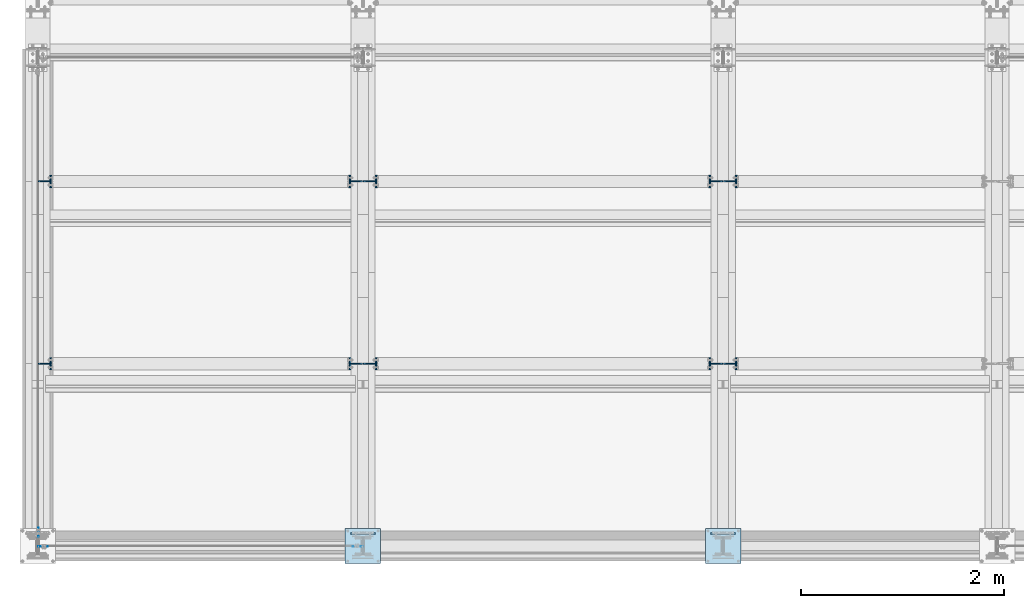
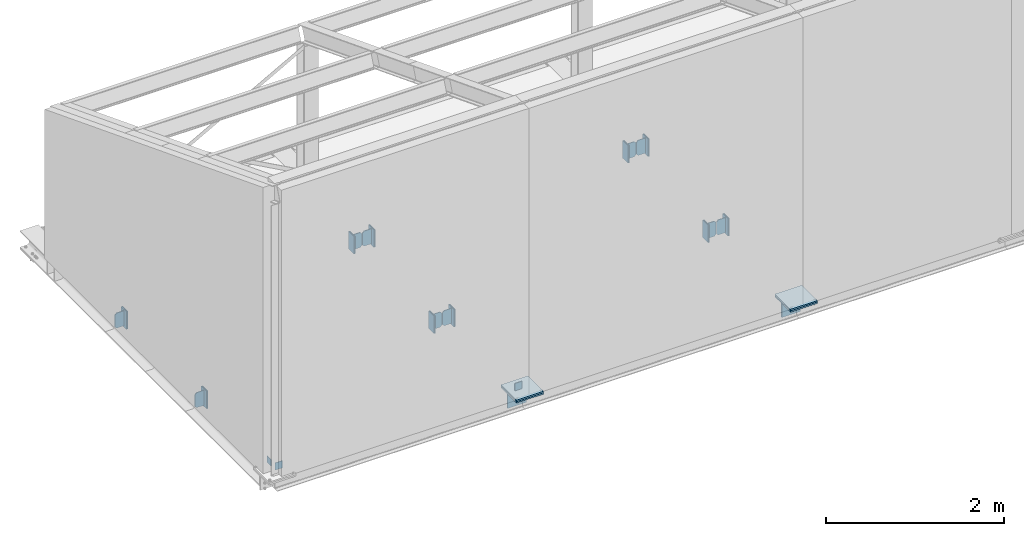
# One storey, part 4 of 66: 39 plates.
"""IFC4 building model written with IfcOpenShell, lengths in metres."""

from ifc_helpers import new_model, si_unit, frame, origin_with_axes, place, context, project, spatial, polyline, outline, extrude, type_object, element, save


model = new_model("IFC4")

# Units and contexts
model_context = context("Model", 3, precision=1e-05, world=origin_with_axes())
ifc_project = project(units=[si_unit("LENGTHUNIT", "METRE"), si_unit("AREAUNIT", "SQUARE_METRE"), si_unit("VOLUMEUNIT", "CUBIC_METRE"), si_unit("MASSUNIT", "GRAM", prefix="KILO"), si_unit("TIMEUNIT", "SECOND"), si_unit("PLANEANGLEUNIT", "RADIAN"), si_unit("SOLIDANGLEUNIT", "STERADIAN"), si_unit("THERMODYNAMICTEMPERATUREUNIT", "DEGREE_CELSIUS")], contexts=[model_context])

# Site, building, storey
placement_1 = place(None, origin_with_axes())
site = spatial("IfcSite", under=ifc_project, at=placement_1, Name="Italia", CompositionType="ELEMENT")
building = spatial("IfcBuilding", under=site, at=placement_1, Name="Uffici", CompositionType="ELEMENT")
storey_placement = place(None, frame((0.0, 0.0, 3.299999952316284), z_axis=(0.0, 0.0, 1.0), x_axis=(1.0, 0.0, 0.0)))
storey = spatial("IfcBuildingStorey", under=building, at=storey_placement, Name="Storey 1", CompositionType="ELEMENT", Elevation=3.299999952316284)

# Plates
plate_type_1 = type_object("IfcPlateType", Name="Collegamento -001_-002", PredefinedType="SHEET")
placement_2 = place(placement_1, origin_with_axes())
plate_1_placement = place(placement_2, origin_with_axes())
element("IfcPlate", 1, at=plate_1_placement, inside=storey, type_object=plate_type_1, Name="Collegamento -001_-002", context=model_context, shape_type="SweptSolid", body=[
    extrude(outline(polyline([(0.0, 0.0), (-0.12, 0.0), (-0.12, 0.24), (0.0, 0.24), (0.0, 0.0)])), frame((0.13, 1.73667, 3.06), z_axis=(-1.0, 0.0, 0.0), x_axis=(0.0, -1.0, 0.0)), (0.0, 0.0, 1.0), 0.01),
])
plate_type_2 = type_object("IfcPlateType", Name="Collegamento -001_-002", PredefinedType="SHEET")
plate_2_placement = place(placement_2, origin_with_axes())
element("IfcPlate", 2, at=plate_2_placement, inside=storey, type_object=plate_type_2, Name="Collegamento -001_-002", context=model_context, shape_type="SweptSolid", body=[
    extrude(outline(polyline([(0.0, 0.0), (-0.12, 0.0), (-0.12, 0.24), (0.0, 0.24), (0.0, 0.0)])), frame((0.14, 1.73667, 3.06), z_axis=(-1.0, 0.0, 0.0), x_axis=(0.0, -1.0, 0.0)), (0.0, 0.0, 1.0), 0.01),
])
plate_type_3 = type_object("IfcPlateType", Name="Collegamento -001_-002", PredefinedType="SHEET")
plate_3_placement = place(placement_2, origin_with_axes())
element("IfcPlate", 3, at=plate_3_placement, inside=storey, type_object=plate_type_3, Name="Collegamento -001_-002", context=model_context, shape_type="SweptSolid", body=[
    extrude(outline(polyline([(0.0, 0.0), (0.094, 0.0), (0.115, 0.0210001), (0.115, 0.185), (0.094, 0.206), (0.0, 0.206), (0.0, 0.0)])), frame((0.12, 1.79167, 3.077), z_axis=(0.0, 1.0, 0.0), x_axis=(-1.0, 0.0, 0.0)), (0.0, 0.0, 1.0), 0.00999999),
])
plate_type_4 = type_object("IfcPlateType", Name="Collegamento -002_-001", PredefinedType="SHEET")
plate_4_placement = place(placement_2, origin_with_axes())
element("IfcPlate", 4, at=plate_4_placement, inside=storey, type_object=plate_type_4, Name="Collegamento -002_-001", context=model_context, shape_type="SweptSolid", body=[
    extrude(outline(polyline([(0.0, 0.0), (-0.12, 0.0), (-0.12, 0.24), (0.0, 0.24), (0.0, 0.0)])), frame((3.075, 1.85667, 3.06), z_axis=(1.0, 0.0, 0.0), x_axis=(0.0, 1.0, 0.0)), (0.0, 0.0, 1.0), 0.00999999),
])
plate_type_5 = type_object("IfcPlateType", Name="Collegamento -002_-001", PredefinedType="SHEET")
plate_5_placement = place(placement_2, origin_with_axes())
element("IfcPlate", 5, at=plate_5_placement, inside=storey, type_object=plate_type_5, Name="Collegamento -002_-001", context=model_context, shape_type="SweptSolid", body=[
    extrude(outline(polyline([(0.0, 0.0), (-0.12, 0.0), (-0.12, 0.24), (0.0, 0.24), (0.0, 0.0)])), frame((3.065, 1.85667, 3.06), z_axis=(1.0, 0.0, 0.0), x_axis=(0.0, 1.0, 0.0)), (0.0, 0.0, 1.0), 0.00999999),
])
plate_type_6 = type_object("IfcPlateType", Name="Collegamento -002_-001", PredefinedType="SHEET")
plate_6_placement = place(placement_2, origin_with_axes())
element("IfcPlate", 6, at=plate_6_placement, inside=storey, type_object=plate_type_6, Name="Collegamento -002_-001", context=model_context, shape_type="SweptSolid", body=[
    extrude(outline(polyline([(0.0, 0.0), (0.0940001, 0.0), (0.115, 0.0210001), (0.115, 0.185), (0.0940001, 0.206), (0.0, 0.206), (0.0, 0.0)])), frame((3.085, 1.80167, 3.077), z_axis=(0.0, -1.0, 0.0), x_axis=(1.0, 0.0, 0.0)), (0.0, 0.0, 1.0), 0.00999999),
])
plate_type_7 = type_object("IfcPlateType", Name="Collegamento -002_-003", PredefinedType="SHEET")
plate_7_placement = place(placement_2, origin_with_axes())
element("IfcPlate", 7, at=plate_7_placement, inside=storey, type_object=plate_type_7, Name="Collegamento -002_-003", context=model_context, shape_type="SweptSolid", body=[
    extrude(outline(polyline([(0.0, 0.0), (-0.12, 0.0), (-0.12, 0.24), (0.0, 0.24), (0.0, 0.0)])), frame((3.335, 1.73667, 3.06), z_axis=(-1.0, 0.0, 0.0), x_axis=(0.0, -1.0, 0.0)), (0.0, 0.0, 1.0), 0.00999999),
])
plate_type_8 = type_object("IfcPlateType", Name="Collegamento -002_-003", PredefinedType="SHEET")
plate_8_placement = place(placement_2, origin_with_axes())
element("IfcPlate", 8, at=plate_8_placement, inside=storey, type_object=plate_type_8, Name="Collegamento -002_-003", context=model_context, shape_type="SweptSolid", body=[
    extrude(outline(polyline([(0.0, 0.0), (-0.12, 0.0), (-0.12, 0.24), (0.0, 0.24), (0.0, 0.0)])), frame((3.345, 1.73667, 3.06), z_axis=(-1.0, 0.0, 0.0), x_axis=(0.0, -1.0, 0.0)), (0.0, 0.0, 1.0), 0.00999999),
])
plate_type_9 = type_object("IfcPlateType", Name="Collegamento -002_-003", PredefinedType="SHEET")
plate_9_placement = place(placement_2, origin_with_axes())
element("IfcPlate", 9, at=plate_9_placement, inside=storey, type_object=plate_type_9, Name="Collegamento -002_-003", context=model_context, shape_type="SweptSolid", body=[
    extrude(outline(polyline([(0.0, 0.0), (0.0940001, 0.0), (0.115, 0.0210001), (0.115, 0.185), (0.0940001, 0.206), (0.0, 0.206), (0.0, 0.0)])), frame((3.325, 1.79167, 3.077), z_axis=(0.0, 1.0, 0.0), x_axis=(-1.0, 0.0, 0.0)), (0.0, 0.0, 1.0), 0.00999999),
])
plate_type_10 = type_object("IfcPlateType", Name="Collegamento -003_-002", PredefinedType="SHEET")
plate_10_placement = place(placement_2, origin_with_axes())
element("IfcPlate", 10, at=plate_10_placement, inside=storey, type_object=plate_type_10, Name="Collegamento -003_-002", context=model_context, shape_type="SweptSolid", body=[
    extrude(outline(polyline([(0.0, 0.0), (-0.12, 0.0), (-0.12, 0.24), (0.0, 0.24), (0.0, 0.0)])), frame((6.625, 1.85667, 3.06), z_axis=(1.0, 0.0, 0.0), x_axis=(0.0, 1.0, 0.0)), (0.0, 0.0, 1.0), 0.0100002),
])
plate_type_11 = type_object("IfcPlateType", Name="Collegamento -003_-002", PredefinedType="SHEET")
plate_11_placement = place(placement_2, origin_with_axes())
element("IfcPlate", 11, at=plate_11_placement, inside=storey, type_object=plate_type_11, Name="Collegamento -003_-002", context=model_context, shape_type="SweptSolid", body=[
    extrude(outline(polyline([(0.0, 0.0), (-0.12, 0.0), (-0.12, 0.24), (0.0, 0.24), (0.0, 0.0)])), frame((6.615, 1.85667, 3.06), z_axis=(1.0, 0.0, 0.0), x_axis=(0.0, 1.0, 0.0)), (0.0, 0.0, 1.0), 0.00999975),
])
plate_type_12 = type_object("IfcPlateType", Name="Collegamento -003_-002", PredefinedType="SHEET")
plate_12_placement = place(placement_2, origin_with_axes())
element("IfcPlate", 12, at=plate_12_placement, inside=storey, type_object=plate_type_12, Name="Collegamento -003_-002", context=model_context, shape_type="SweptSolid", body=[
    extrude(outline(polyline([(0.0, 0.0), (0.0939999, 0.0), (0.115, 0.0210001), (0.115, 0.185), (0.0939999, 0.206), (0.0, 0.206), (0.0, 0.0)])), frame((6.635, 1.80167, 3.077), z_axis=(0.0, -1.0, 0.0), x_axis=(1.0, 0.0, 0.0)), (0.0, 0.0, 1.0), 0.00999999),
])
plate_type_13 = type_object("IfcPlateType", Name="Collegamento -003_-004", PredefinedType="SHEET")
plate_13_placement = place(placement_2, origin_with_axes())
element("IfcPlate", 13, at=plate_13_placement, inside=storey, type_object=plate_type_13, Name="Collegamento -003_-004", context=model_context, shape_type="SweptSolid", body=[
    extrude(outline(polyline([(0.0, 0.0), (-0.12, 0.0), (-0.12, 0.24), (0.0, 0.24), (0.0, 0.0)])), frame((6.885, 1.73667, 3.06), z_axis=(-1.0, 0.0, 0.0), x_axis=(0.0, -1.0, 0.0)), (0.0, 0.0, 1.0), 0.0100002),
])
plate_type_14 = type_object("IfcPlateType", Name="Collegamento -003_-004", PredefinedType="SHEET")
plate_14_placement = place(placement_2, origin_with_axes())
element("IfcPlate", 14, at=plate_14_placement, inside=storey, type_object=plate_type_14, Name="Collegamento -003_-004", context=model_context, shape_type="SweptSolid", body=[
    extrude(outline(polyline([(0.0, 0.0), (-0.12, 0.0), (-0.12, 0.24), (0.0, 0.24), (0.0, 0.0)])), frame((6.895, 1.73667, 3.06), z_axis=(-1.0, 0.0, 0.0), x_axis=(0.0, -1.0, 0.0)), (0.0, 0.0, 1.0), 0.00999975),
])
plate_type_15 = type_object("IfcPlateType", Name="Collegamento -003_-004", PredefinedType="SHEET")
plate_15_placement = place(placement_2, origin_with_axes())
element("IfcPlate", 15, at=plate_15_placement, inside=storey, type_object=plate_type_15, Name="Collegamento -003_-004", context=model_context, shape_type="SweptSolid", body=[
    extrude(outline(polyline([(0.0, 0.0), (0.0939999, 0.0), (0.115, 0.0210001), (0.115, 0.185), (0.0939999, 0.206), (0.0, 0.206), (0.0, 0.0)])), frame((6.875, 1.79167, 3.077), z_axis=(0.0, 1.0, 0.0), x_axis=(-1.0, 0.0, 0.0)), (0.0, 0.0, 1.0), 0.00999999),
])
plate_type_16 = type_object("IfcPlateType", Name="Collegamento -011_-012", PredefinedType="SHEET")
plate_16_placement = place(placement_2, origin_with_axes())
element("IfcPlate", 16, at=plate_16_placement, inside=storey, type_object=plate_type_16, Name="Collegamento -011_-012", context=model_context, shape_type="SweptSolid", body=[
    extrude(outline(polyline([(0.0, 0.0), (-0.12, 0.0), (-0.12, 0.24), (0.0, 0.24), (0.0, 0.0)])), frame((0.13, 3.53333, 3.06), z_axis=(-1.0, 0.0, 0.0), x_axis=(0.0, -1.0, 0.0)), (0.0, 0.0, 1.0), 0.01),
])
plate_type_17 = type_object("IfcPlateType", Name="Collegamento -011_-012", PredefinedType="SHEET")
plate_17_placement = place(placement_2, origin_with_axes())
element("IfcPlate", 17, at=plate_17_placement, inside=storey, type_object=plate_type_17, Name="Collegamento -011_-012", context=model_context, shape_type="SweptSolid", body=[
    extrude(outline(polyline([(0.0, 0.0), (-0.12, 0.0), (-0.12, 0.24), (0.0, 0.24), (0.0, 0.0)])), frame((0.14, 3.53333, 3.06), z_axis=(-1.0, 0.0, 0.0), x_axis=(0.0, -1.0, 0.0)), (0.0, 0.0, 1.0), 0.01),
])
plate_type_18 = type_object("IfcPlateType", Name="Collegamento -011_-012", PredefinedType="SHEET")
plate_18_placement = place(placement_2, origin_with_axes())
element("IfcPlate", 18, at=plate_18_placement, inside=storey, type_object=plate_type_18, Name="Collegamento -011_-012", context=model_context, shape_type="SweptSolid", body=[
    extrude(outline(polyline([(0.0, 0.0), (0.094, 0.0), (0.115, 0.0210001), (0.115, 0.185), (0.094, 0.206), (0.0, 0.206), (0.0, 0.0)])), frame((0.12, 3.58833, 3.077), z_axis=(0.0, 1.0, 0.0), x_axis=(-1.0, 0.0, 0.0)), (0.0, 0.0, 1.0), 0.0100002),
])
plate_type_19 = type_object("IfcPlateType", Name="Collegamento -012_-011", PredefinedType="SHEET")
plate_19_placement = place(placement_2, origin_with_axes())
element("IfcPlate", 19, at=plate_19_placement, inside=storey, type_object=plate_type_19, Name="Collegamento -012_-011", context=model_context, shape_type="SweptSolid", body=[
    extrude(outline(polyline([(0.0, 0.0), (-0.12, 0.0), (-0.12, 0.24), (0.0, 0.24), (0.0, 0.0)])), frame((3.075, 3.65333, 3.06), z_axis=(1.0, 0.0, 0.0), x_axis=(0.0, 1.0, 0.0)), (0.0, 0.0, 1.0), 0.00999999),
])
plate_type_20 = type_object("IfcPlateType", Name="Collegamento -012_-011", PredefinedType="SHEET")
plate_20_placement = place(placement_2, origin_with_axes())
element("IfcPlate", 20, at=plate_20_placement, inside=storey, type_object=plate_type_20, Name="Collegamento -012_-011", context=model_context, shape_type="SweptSolid", body=[
    extrude(outline(polyline([(0.0, 0.0), (-0.12, 0.0), (-0.12, 0.24), (0.0, 0.24), (0.0, 0.0)])), frame((3.065, 3.65333, 3.06), z_axis=(1.0, 0.0, 0.0), x_axis=(0.0, 1.0, 0.0)), (0.0, 0.0, 1.0), 0.00999999),
])
plate_type_21 = type_object("IfcPlateType", Name="Collegamento -012_-011", PredefinedType="SHEET")
plate_21_placement = place(placement_2, origin_with_axes())
element("IfcPlate", 21, at=plate_21_placement, inside=storey, type_object=plate_type_21, Name="Collegamento -012_-011", context=model_context, shape_type="SweptSolid", body=[
    extrude(outline(polyline([(0.0, 0.0), (0.0940001, 0.0), (0.115, 0.0210001), (0.115, 0.185), (0.0940001, 0.206), (0.0, 0.206), (0.0, 0.0)])), frame((3.085, 3.59833, 3.077), z_axis=(0.0, -1.0, 0.0), x_axis=(1.0, 0.0, 0.0)), (0.0, 0.0, 1.0), 0.0100002),
])
plate_type_22 = type_object("IfcPlateType", Name="Collegamento -012_-013", PredefinedType="SHEET")
plate_22_placement = place(placement_2, origin_with_axes())
element("IfcPlate", 22, at=plate_22_placement, inside=storey, type_object=plate_type_22, Name="Collegamento -012_-013", context=model_context, shape_type="SweptSolid", body=[
    extrude(outline(polyline([(0.0, 0.0), (-0.12, 0.0), (-0.12, 0.24), (0.0, 0.24), (0.0, 0.0)])), frame((3.335, 3.53333, 3.06), z_axis=(-1.0, 0.0, 0.0), x_axis=(0.0, -1.0, 0.0)), (0.0, 0.0, 1.0), 0.00999999),
])
plate_type_23 = type_object("IfcPlateType", Name="Collegamento -012_-013", PredefinedType="SHEET")
plate_23_placement = place(placement_2, origin_with_axes())
element("IfcPlate", 23, at=plate_23_placement, inside=storey, type_object=plate_type_23, Name="Collegamento -012_-013", context=model_context, shape_type="SweptSolid", body=[
    extrude(outline(polyline([(0.0, 0.0), (-0.12, 0.0), (-0.12, 0.24), (0.0, 0.24), (0.0, 0.0)])), frame((3.345, 3.53333, 3.06), z_axis=(-1.0, 0.0, 0.0), x_axis=(0.0, -1.0, 0.0)), (0.0, 0.0, 1.0), 0.00999999),
])
plate_type_24 = type_object("IfcPlateType", Name="Collegamento -012_-013", PredefinedType="SHEET")
plate_24_placement = place(placement_2, origin_with_axes())
element("IfcPlate", 24, at=plate_24_placement, inside=storey, type_object=plate_type_24, Name="Collegamento -012_-013", context=model_context, shape_type="SweptSolid", body=[
    extrude(outline(polyline([(0.0, 0.0), (0.0940001, 0.0), (0.115, 0.0210001), (0.115, 0.185), (0.0940001, 0.206), (0.0, 0.206), (0.0, 0.0)])), frame((3.325, 3.58833, 3.077), z_axis=(0.0, 1.0, 0.0), x_axis=(-1.0, 0.0, 0.0)), (0.0, 0.0, 1.0), 0.0100002),
])
plate_type_25 = type_object("IfcPlateType", Name="Collegamento -013_-012", PredefinedType="SHEET")
plate_25_placement = place(placement_2, origin_with_axes())
element("IfcPlate", 25, at=plate_25_placement, inside=storey, type_object=plate_type_25, Name="Collegamento -013_-012", context=model_context, shape_type="SweptSolid", body=[
    extrude(outline(polyline([(0.0, 0.0), (-0.12, 0.0), (-0.12, 0.24), (0.0, 0.24), (0.0, 0.0)])), frame((6.625, 3.65333, 3.06), z_axis=(1.0, 0.0, 0.0), x_axis=(0.0, 1.0, 0.0)), (0.0, 0.0, 1.0), 0.0100002),
])
plate_type_26 = type_object("IfcPlateType", Name="Collegamento -013_-012", PredefinedType="SHEET")
plate_26_placement = place(placement_2, origin_with_axes())
element("IfcPlate", 26, at=plate_26_placement, inside=storey, type_object=plate_type_26, Name="Collegamento -013_-012", context=model_context, shape_type="SweptSolid", body=[
    extrude(outline(polyline([(0.0, 0.0), (-0.12, 0.0), (-0.12, 0.24), (0.0, 0.24), (0.0, 0.0)])), frame((6.615, 3.65333, 3.06), z_axis=(1.0, 0.0, 0.0), x_axis=(0.0, 1.0, 0.0)), (0.0, 0.0, 1.0), 0.00999975),
])
plate_type_27 = type_object("IfcPlateType", Name="Collegamento -013_-012", PredefinedType="SHEET")
plate_27_placement = place(placement_2, origin_with_axes())
element("IfcPlate", 27, at=plate_27_placement, inside=storey, type_object=plate_type_27, Name="Collegamento -013_-012", context=model_context, shape_type="SweptSolid", body=[
    extrude(outline(polyline([(0.0, 0.0), (0.0939999, 0.0), (0.115, 0.0210001), (0.115, 0.185), (0.0939999, 0.206), (0.0, 0.206), (0.0, 0.0)])), frame((6.635, 3.59833, 3.077), z_axis=(0.0, -1.0, 0.0), x_axis=(1.0, 0.0, 0.0)), (0.0, 0.0, 1.0), 0.0100002),
])
plate_type_28 = type_object("IfcPlateType", Name="Collegamento -013_-014", PredefinedType="SHEET")
plate_28_placement = place(placement_2, origin_with_axes())
element("IfcPlate", 28, at=plate_28_placement, inside=storey, type_object=plate_type_28, Name="Collegamento -013_-014", context=model_context, shape_type="SweptSolid", body=[
    extrude(outline(polyline([(0.0, 0.0), (-0.12, 0.0), (-0.12, 0.24), (0.0, 0.24), (0.0, 0.0)])), frame((6.885, 3.53333, 3.06), z_axis=(-1.0, 0.0, 0.0), x_axis=(0.0, -1.0, 0.0)), (0.0, 0.0, 1.0), 0.0100002),
])
plate_type_29 = type_object("IfcPlateType", Name="Collegamento -013_-014", PredefinedType="SHEET")
plate_29_placement = place(placement_2, origin_with_axes())
element("IfcPlate", 29, at=plate_29_placement, inside=storey, type_object=plate_type_29, Name="Collegamento -013_-014", context=model_context, shape_type="SweptSolid", body=[
    extrude(outline(polyline([(0.0, 0.0), (-0.12, 0.0), (-0.12, 0.24), (0.0, 0.24), (0.0, 0.0)])), frame((6.895, 3.53333, 3.06), z_axis=(-1.0, 0.0, 0.0), x_axis=(0.0, -1.0, 0.0)), (0.0, 0.0, 1.0), 0.00999975),
])
plate_type_30 = type_object("IfcPlateType", Name="Collegamento -013_-014", PredefinedType="SHEET")
plate_30_placement = place(placement_2, origin_with_axes())
element("IfcPlate", 30, at=plate_30_placement, inside=storey, type_object=plate_type_30, Name="Collegamento -013_-014", context=model_context, shape_type="SweptSolid", body=[
    extrude(outline(polyline([(0.0, 0.0), (0.0939999, 0.0), (0.115, 0.0210001), (0.115, 0.185), (0.0939999, 0.206), (0.0, 0.206), (0.0, 0.0)])), frame((6.875, 3.58833, 3.077), z_axis=(0.0, 1.0, 0.0), x_axis=(-1.0, 0.0, 0.0)), (0.0, 0.0, 1.0), 0.0100002),
])
plate_type_31 = type_object("IfcPlateType", Name="Collegamenti 0101_-001 0102_-002 0103_-003 0104_-004", PredefinedType="SHEET")
plate_31_placement = place(placement_2, origin_with_axes())
element("IfcPlate", 31, at=plate_31_placement, inside=storey, type_object=plate_type_31, Name="Collegamenti 0101_-001 0102_-002 0103_-003 0104_-004", context=model_context, shape_type="SweptSolid", body=[
    extrude(outline(polyline([(0.0, 0.0), (-0.24, 0.0), (-0.24, 0.287), (0.0, 0.287), (0.0, 0.0)])), frame((3.325, 0.13, 3.013), z_axis=(0.0, -1.0, 0.0), x_axis=(1.0, 0.0, 0.0)), (0.0, 0.0, 1.0), 0.015),
])
plate_type_32 = type_object("IfcPlateType", Name="Collegamenti 0101_-001 0102_-002 0103_-003 0104_-004", PredefinedType="SHEET")
plate_32_placement = place(placement_2, origin_with_axes())
element("IfcPlate", 32, at=plate_32_placement, inside=storey, type_object=plate_type_32, Name="Collegamenti 0101_-001 0102_-002 0103_-003 0104_-004", context=model_context, shape_type="SweptSolid", body=[
    extrude(outline(polyline([(0.0, 0.0), (-0.24, 0.0), (-0.24, 0.287), (0.0, 0.287), (0.0, 0.0)])), frame((6.875, 0.13, 3.013), z_axis=(0.0, -1.0, 0.0), x_axis=(1.0, 0.0, 0.0)), (0.0, 0.0, 1.0), 0.015),
])
plate_type_33 = type_object("IfcPlateType", Name="Collegamenti 0101_0201 0102_0202 0103_0203 0104_0204 0105_0205", PredefinedType="SHEET")
plate_33_placement = place(placement_2, origin_with_axes())
element("IfcPlate", 33, at=plate_33_placement, inside=storey, type_object=plate_type_33, Name="Collegamenti 0101_0201 0102_0202 0103_0203 0104_0204 0105_0205", context=model_context, shape_type="SweptSolid", body=[
    extrude(outline(polyline([(0.0, 0.0), (0.0, 0.35), (0.349, 0.35), (0.349, 0.0), (0.0, 0.0)])), frame((3.03, -0.1745, 3.32), z_axis=(0.0, 0.0, -1.0), x_axis=(0.0, 1.0, 0.0)), (0.0, 0.0, 1.0), 0.02),
])
plate_type_34 = type_object("IfcPlateType", Name="Collegamenti 0101_0201 0102_0202 0103_0203 0104_0204 0105_0205", PredefinedType="SHEET")
plate_34_placement = place(placement_2, origin_with_axes())
element("IfcPlate", 34, at=plate_34_placement, inside=storey, type_object=plate_type_34, Name="Collegamenti 0101_0201 0102_0202 0103_0203 0104_0204 0105_0205", context=model_context, shape_type="SweptSolid", body=[
    extrude(outline(polyline([(0.0, 0.0), (0.0, 0.35), (0.349, 0.35), (0.349, 0.0), (0.0, 0.0)])), frame((3.03, -0.1745, 3.3), z_axis=(0.0, 0.0, -1.0), x_axis=(0.0, 1.0, 0.0)), (0.0, 0.0, 1.0), 0.02),
])
plate_type_35 = type_object("IfcPlateType", Name="Collegamenti 0101_0201 0102_0202 0103_0203 0104_0204 0105_0205", PredefinedType="SHEET")
plate_35_placement = place(placement_2, origin_with_axes())
element("IfcPlate", 35, at=plate_35_placement, inside=storey, type_object=plate_type_35, Name="Collegamenti 0101_0201 0102_0202 0103_0203 0104_0204 0105_0205", context=model_context, shape_type="SweptSolid", body=[
    extrude(outline(polyline([(0.0, 0.0), (0.0, 0.35), (0.349, 0.35), (0.349, 0.0), (0.0, 0.0)])), frame((6.58, -0.1745, 3.32), z_axis=(0.0, 0.0, -1.0), x_axis=(0.0, 1.0, 0.0)), (0.0, 0.0, 1.0), 0.02),
])
plate_type_36 = type_object("IfcPlateType", Name="Collegamenti 0101_0201 0102_0202 0103_0203 0104_0204 0105_0205", PredefinedType="SHEET")
plate_36_placement = place(placement_2, origin_with_axes())
element("IfcPlate", 36, at=plate_36_placement, inside=storey, type_object=plate_type_36, Name="Collegamenti 0101_0201 0102_0202 0103_0203 0104_0204 0105_0205", context=model_context, shape_type="SweptSolid", body=[
    extrude(outline(polyline([(0.0, 0.0), (0.0, 0.35), (0.349, 0.35), (0.349, 0.0), (0.0, 0.0)])), frame((6.58, -0.1745, 3.3), z_axis=(0.0, 0.0, -1.0), x_axis=(0.0, 1.0, 0.0)), (0.0, 0.0, 1.0), 0.02),
])
plate_type_37 = type_object("IfcPlateType", Name="Collegamento 0101_0202", PredefinedType="SHEET")
plate_37_placement = place(placement_2, origin_with_axes())
element("IfcPlate", 37, at=plate_37_placement, inside=storey, type_object=plate_type_37, Name="Collegamento 0101_0202", context=model_context, shape_type="SweptSolid", body=[
    extrude(outline(polyline([(0.0, 0.0), (0.095, 0.0), (0.0949999, -0.0999999), (0.0, -0.0999999), (0.0, 0.0)])), frame((0.098, -0.0075, 3.41996), z_axis=(0.0, 1.0, 0.0), x_axis=(-1.0, 0.0, 0.0)), (0.0, 0.0, 1.0), 0.005),
])
plate_type_38 = type_object("IfcPlateType", Name="Collegamento 0101_0206", PredefinedType="SHEET")
plate_38_placement = place(placement_2, origin_with_axes())
element("IfcPlate", 38, at=plate_38_placement, inside=storey, type_object=plate_type_38, Name="Collegamento 0101_0206", context=model_context, shape_type="SweptSolid", body=[
    extrude(outline(polyline([(0.0, 0.0), (0.094, 0.0), (0.0939999, -0.0880001), (-1.93715e-07, -0.0880001), (0.0, 0.0)])), frame((0.0075, 0.1795, 3.40811), z_axis=(-1.0, 0.0, 0.0), x_axis=(0.0, -1.0, 0.0)), (0.0, 0.0, 1.0), 0.005),
])
plate_type_39 = type_object("IfcPlateType", Name="Collegamento 0102_0201", PredefinedType="SHEET")
plate_39_placement = place(placement_2, origin_with_axes())
element("IfcPlate", 39, at=plate_39_placement, inside=storey, type_object=plate_type_39, Name="Collegamento 0102_0201", context=model_context, shape_type="SweptSolid", body=[
    extrude(outline(polyline([(0.0, 0.0), (-0.0949996, -4.76837e-07), (-0.0949998, -0.1), (0.0, -0.1), (0.0, 0.0)])), frame((3.107, -0.0075, 3.41996), z_axis=(0.0, 1.0, 0.0), x_axis=(-1.0, 0.0, 0.0)), (0.0, 0.0, 1.0), 0.005),
])

save(model, "model.ifc")
